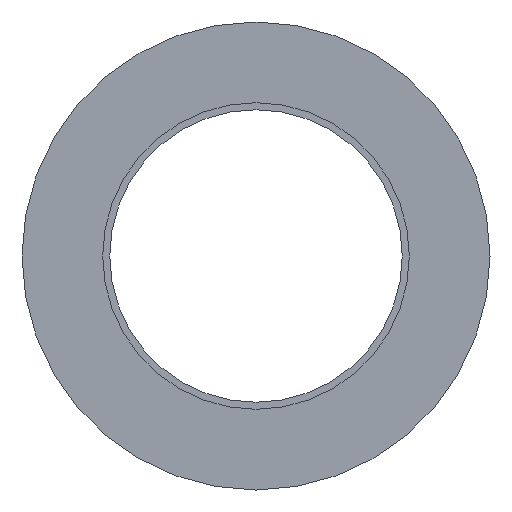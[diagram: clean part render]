
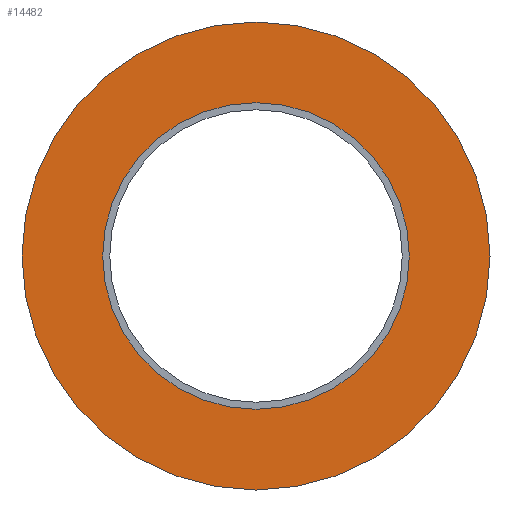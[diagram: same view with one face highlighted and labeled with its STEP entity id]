
A CAD part, left-side view. The second image highlights one B-rep face of the part: STEP entity #14482.
In plain terms, the highlighted planar face has unit normal (-1, 0, 0).
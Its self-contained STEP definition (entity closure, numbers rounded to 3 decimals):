
#13376=CARTESIAN_POINT('',(-60.5,0.,-13.1));
#13377=VERTEX_POINT('',#13376);
#13386=CARTESIAN_POINT('',(-60.5,0.,13.1));
#13387=VERTEX_POINT('',#13386);
#13388=CARTESIAN_POINT('',(-60.5,0.,0.));
#13389=DIRECTION('',(1.0,0.0,0.0));
#13390=DIRECTION('',(0.0,0.0,-1.0));
#13391=AXIS2_PLACEMENT_3D('',#13388,#13389,#13390);
#13392=CIRCLE('',#13391,13.1);
#13393=EDGE_CURVE('',#13387,#13377,#13392,.T.);
#13460=CARTESIAN_POINT('',(-60.5,0.,-20.0));
#13461=VERTEX_POINT('',#13460);
#13470=CARTESIAN_POINT('',(-60.5,0.,20.0));
#13471=VERTEX_POINT('',#13470);
#13472=CARTESIAN_POINT('',(-60.5,0.,0.));
#13473=DIRECTION('',(1.0,0.0,0.0));
#13474=DIRECTION('',(0.0,0.0,-1.0));
#13475=AXIS2_PLACEMENT_3D('',#13472,#13473,#13474);
#13476=CIRCLE('',#13475,20.0);
#13477=EDGE_CURVE('',#13461,#13471,#13476,.T.);
#14377=CARTESIAN_POINT('',(-60.5,0.,0.));
#14378=DIRECTION('',(1.0,0.0,0.0));
#14379=DIRECTION('',(0.0,0.0,-1.0));
#14380=AXIS2_PLACEMENT_3D('',#14377,#14378,#14379);
#14381=CIRCLE('',#14380,20.0);
#14382=EDGE_CURVE('',#13471,#13461,#14381,.T.);
#14459=CARTESIAN_POINT('',(-60.5,0.,0.));
#14460=DIRECTION('',(1.0,0.0,0.0));
#14461=DIRECTION('',(0.0,0.0,-1.0));
#14462=AXIS2_PLACEMENT_3D('',#14459,#14460,#14461);
#14463=CIRCLE('',#14462,13.1);
#14464=EDGE_CURVE('',#13377,#13387,#14463,.T.);
#14469=CARTESIAN_POINT('',(-60.5,0.,-16.55));
#14470=DIRECTION('',(-1.0,0.0,0.0));
#14471=DIRECTION('',(0.0,1.0,0.0));
#14472=AXIS2_PLACEMENT_3D('',#14469,#14470,#14471);
#14473=PLANE('',#14472);
#14474=ORIENTED_EDGE('',*,*,#13477,.F.);
#14475=ORIENTED_EDGE('',*,*,#14382,.F.);
#14476=EDGE_LOOP('',(#14474,#14475));
#14477=FACE_OUTER_BOUND('',#14476,.T.);
#14478=ORIENTED_EDGE('',*,*,#14464,.T.);
#14479=ORIENTED_EDGE('',*,*,#13393,.T.);
#14480=EDGE_LOOP('',(#14478,#14479));
#14481=FACE_BOUND('',#14480,.T.);
#14482=ADVANCED_FACE('',(#14477,#14481),#14473,.T.);
